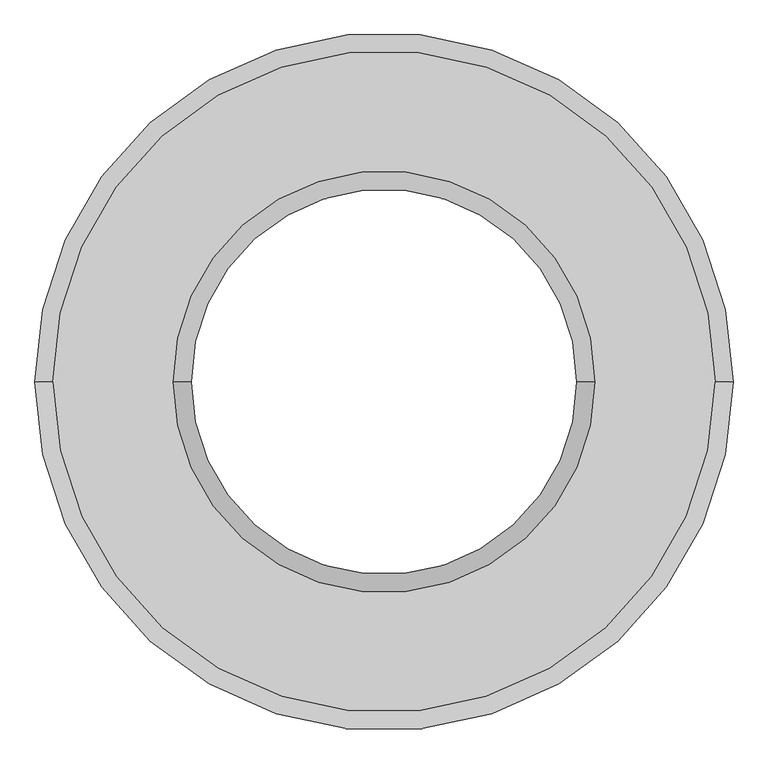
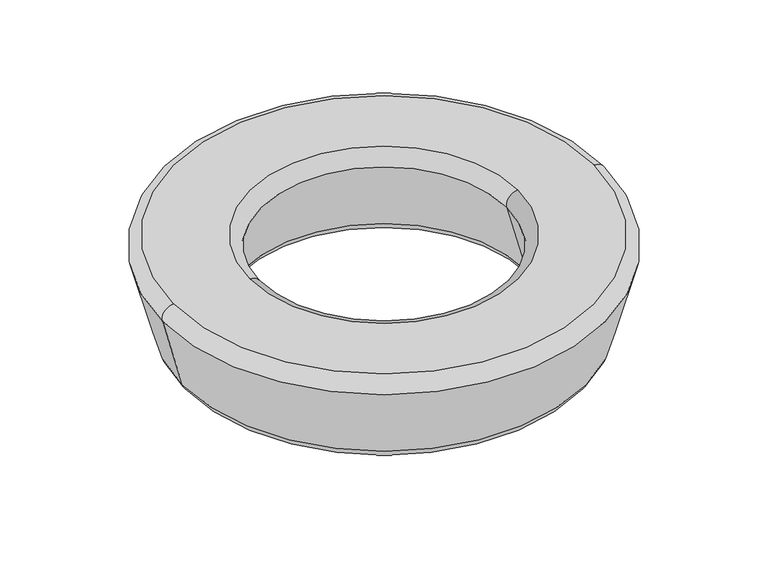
"""IFC4 building model written with IfcOpenShell, lengths in millimetres: furniture geometry, out-sider - Loop - Circle - Bench : out-sider - Loop - Circle - Bench."""

from ifc_helpers import new_model, si_unit, point, frame, origin, origin_with_axes, place, context, project, spatial, polyline, circle_curve, ellipse_curve, trimmed, source, transform, mapped, element, save
from ifc_brep_helpers import plane_surface, revolved_surface, advanced_brep


def furniture_19c0a6c2(model_context):
    return source(origin(), model_context, "Body", "AdvancedBrep", [
        advanced_brep(
        [(-578.234545, 0.0, 42.0312789), (578.234545, 0.0, 42.0312789), (633.0107741, 0.0, 0.0), (-633.0107741, 0.0, 0.0), (-497.9802551, 0.0, 341.5443664), (497.9802551, 0.0, 341.5443664), (-542.7971698, 0.0, 399.9509069), (542.7971698, 0.0, 399.9509069), (-897.1604862, 0.0, 341.5443664), (897.1604862, 0.0, 341.5443664), (852.3435714, 0.0, 399.9509069), (-852.3435714, 0.0, 399.9509069), (-816.9061962, 0.0, 42.0312789), (816.9061962, 0.0, 42.0312789), (-762.1299671, 0.0, 0.0), (762.1299671, 0.0, 0.0)],
        [
            (0, 1, circle_curve(frame((0.0, 0.0, 42.0312789), z_axis=(0.0, 0.0, 1.0), x_axis=(1.0, 0.0, 0.0)), 578.234545)),
            (1, 2, circle_curve(frame((633.0107741, 0.0, 56.7085253), z_axis=(0.0, -1.0, 0.0), x_axis=(1.0, 0.0, 0.0)), 56.7085253)),
            (2, 3, circle_curve(frame((0.0, 0.0, 0.0), z_axis=(0.0, 0.0, -1.0), x_axis=(1.0, 0.0, 0.0)), 633.0107741)),
            (3, 0, circle_curve(frame((-633.0107741, 0.0, 56.7085253), z_axis=(0.0, -1.0, 0.0), x_axis=(-1.0, 0.0, 0.0)), 56.7085253)),
            (4, 5, circle_curve(frame((0.0, 0.0, 341.5443664), z_axis=(0.0, 0.0, 1.0), x_axis=(1.0, 0.0, 0.0)), 497.9802551)),
            (5, 1),
            (0, 4),
            (6, 7, circle_curve(frame((0.0, 0.0, 399.9509069), z_axis=(0.0, 0.0, 1.0), x_axis=(1.0, 0.0, 0.0)), 542.7971698)),
            (7, 5, circle_curve(frame((542.7971698, 0.0, 353.5530226), z_axis=(0.0, -1.0, 0.0), x_axis=(1.0, 0.0, 0.0)), 46.3978843)),
            (4, 6, circle_curve(frame((-542.7971698, 0.0, 353.5530226), z_axis=(0.0, -1.0, 0.0), x_axis=(-1.0, 0.0, 0.0)), 46.3978843)),
            (8, 9, circle_curve(frame((0.0, 0.0, 341.5443664), z_axis=(0.0, 0.0, 1.0), x_axis=(1.0, 0.0, 0.0)), 897.1604862)),
            (9, 10, circle_curve(frame((852.3435714, 0.0, 353.5530226), z_axis=(0.0, -1.0, 0.0), x_axis=(-1.0, 0.0, 0.0)), 46.3978843)),
            (10, 11, circle_curve(frame((0.0, 0.0, 399.9509069), z_axis=(0.0, 0.0, -1.0), x_axis=(1.0, 0.0, 0.0)), 852.3435714)),
            (11, 8, circle_curve(frame((-852.3435714, 0.0, 353.5530226), z_axis=(0.0, -1.0, 0.0), x_axis=(1.0, 0.0, 0.0)), 46.3978843)),
            (12, 13, circle_curve(frame((0.0, 0.0, 42.0312789), z_axis=(0.0, 0.0, 1.0), x_axis=(1.0, 0.0, 0.0)), 816.9061962)),
            (13, 9),
            (8, 12),
            (14, 15, circle_curve(origin_with_axes(), 762.1299671)),
            (15, 13, circle_curve(frame((762.1299671, 0.0, 56.7085253), z_axis=(0.0, -1.0, 0.0), x_axis=(-1.0, 0.0, 0.0)), 56.7085253)),
            (12, 14, circle_curve(frame((-762.1299671, 0.0, 56.7085253), z_axis=(0.0, -1.0, 0.0), x_axis=(1.0, 0.0, 0.0)), 56.7085253)),
            (14, 15, circle_curve(frame((0.0, 0.0, 0.0), z_axis=(0.0, 0.0, -1.0), x_axis=(-1.0, 0.0, 0.0)), 762.1299671)),
            (2, 3, circle_curve(frame((0.0, 0.0, 0.0), z_axis=(0.0, 0.0, 1.0), x_axis=(-1.0, 0.0, 0.0)), 633.0107741)),
            (1, 0, circle_curve(frame((0.0, 0.0, 42.0312789), z_axis=(0.0, 0.0, 1.0), x_axis=(-1.0, 0.0, 0.0)), 578.234545)),
            (5, 4, circle_curve(frame((0.0, 0.0, 341.5443664), z_axis=(0.0, 0.0, 1.0), x_axis=(-1.0, 0.0, 0.0)), 497.9802551)),
            (7, 6, circle_curve(frame((0.0, 0.0, 399.9509069), z_axis=(0.0, 0.0, 1.0), x_axis=(-1.0, 0.0, 0.0)), 542.7971698)),
            (10, 11, circle_curve(frame((0.0, 0.0, 399.9509069), z_axis=(0.0, 0.0, 1.0), x_axis=(-1.0, 0.0, 0.0)), 852.3435714)),
            (9, 8, circle_curve(frame((0.0, 0.0, 341.5443664), z_axis=(0.0, 0.0, 1.0), x_axis=(-1.0, 0.0, 0.0)), 897.1604862)),
            (13, 12, circle_curve(frame((0.0, 0.0, 42.0312789), z_axis=(0.0, 0.0, 1.0), x_axis=(-1.0, 0.0, 0.0)), 816.9061962)),
        ],
        [
            revolved_surface(trimmed(ellipse_curve(frame((633.0107741, 0.0, 56.7085253), z_axis=(0.0, 1.0, 0.0), x_axis=(1.0, 0.0, 0.0)), 56.7085253, 56.7085253), [point((633.0107741, 0.0, 0.0))], [point((578.234545, 0.0, 42.0312789))], True, "CARTESIAN"), (0.0, 0.0, 0.0), (0.0, 0.0, -1.0)),
            revolved_surface(polyline([(578.234545, 0.0, 42.0312789), (497.9802551, 0.0, 341.5443664)]), (0.0, 0.0, 0.0), (0.0, 0.0, -1.0)),
            revolved_surface(trimmed(ellipse_curve(frame((542.7971698, 0.0, 353.5530226), z_axis=(0.0, 1.0, 0.0), x_axis=(1.0, 0.0, 0.0)), 46.3978843, 46.3978843), [point((497.9802551, 0.0, 341.5443664))], [point((542.7971698, 0.0, 399.9509069))], True, "CARTESIAN"), (0.0, 0.0, 0.0), (0.0, 0.0, -1.0)),
            revolved_surface(trimmed(ellipse_curve(frame((852.3435714, 0.0, 353.5530226), z_axis=(0.0, 1.0, 0.0), x_axis=(-1.0, 0.0, 0.0)), 46.3978843, 46.3978843), [point((852.3435714, 0.0, 399.9509069))], [point((897.1604862, 0.0, 341.5443664))], True, "CARTESIAN"), (0.0, 0.0, 0.0), (0.0, 0.0, -1.0)),
            revolved_surface(polyline([(897.1604862, 0.0, 341.5443664), (816.9061962, 0.0, 42.0312789)]), (0.0, 0.0, 0.0), (0.0, 0.0, -1.0)),
            revolved_surface(trimmed(ellipse_curve(frame((762.1299671, 0.0, 56.7085253), z_axis=(0.0, 1.0, 0.0), x_axis=(-1.0, 0.0, 0.0)), 56.7085253, 56.7085253), [point((816.9061962, 0.0, 42.0312789))], [point((762.1299671, 0.0, 0.0))], True, "CARTESIAN"), (0.0, 0.0, 0.0), (0.0, 0.0, -1.0)),
            plane_surface(frame((0.0, 0.0, 0.0), z_axis=(0.0, 0.0, -1.0), x_axis=(-1.0, 0.0, 0.0))),
            revolved_surface(trimmed(ellipse_curve(frame((-633.0107741, 0.0, 56.7085253), z_axis=(0.0, -1.0, 0.0), x_axis=(-1.0, 0.0, 0.0)), 56.7085253, 56.7085253), [point((-633.0107741, 0.0, 0.0))], [point((-578.234545, 0.0, 42.0312789))], True, "CARTESIAN"), (0.0, 0.0, 0.0), (0.0, 0.0, -1.0)),
            revolved_surface(polyline([(-578.234545, 0.0, 42.0312789), (-497.9802551, 0.0, 341.5443664)]), (0.0, 0.0, 0.0), (0.0, 0.0, -1.0)),
            revolved_surface(trimmed(ellipse_curve(frame((-542.7971698, 0.0, 353.5530226), z_axis=(0.0, -1.0, 0.0), x_axis=(-1.0, 0.0, 0.0)), 46.3978843, 46.3978843), [point((-497.9802551, 0.0, 341.5443664))], [point((-542.7971698, 0.0, 399.9509069))], True, "CARTESIAN"), (0.0, 0.0, 0.0), (0.0, 0.0, -1.0)),
            plane_surface(frame((0.0, 0.0, 399.9509069), z_axis=(0.0, 0.0, 1.0), x_axis=(-1.0, 0.0, 0.0))),
            revolved_surface(trimmed(ellipse_curve(frame((-852.3435714, 0.0, 353.5530226), z_axis=(0.0, -1.0, 0.0), x_axis=(1.0, 0.0, 0.0)), 46.3978843, 46.3978843), [point((-852.3435714, 0.0, 399.9509069))], [point((-897.1604862, 0.0, 341.5443664))], True, "CARTESIAN"), (0.0, 0.0, 0.0), (0.0, 0.0, -1.0)),
            revolved_surface(polyline([(-897.1604862, 0.0, 341.5443664), (-816.9061962, 0.0, 42.0312789)]), (0.0, 0.0, 0.0), (0.0, 0.0, -1.0)),
            revolved_surface(trimmed(ellipse_curve(frame((-762.1299671, 0.0, 56.7085253), z_axis=(0.0, -1.0, 0.0), x_axis=(1.0, 0.0, 0.0)), 56.7085253, 56.7085253), [point((-816.9061962, 0.0, 42.0312789))], [point((-762.1299671, 0.0, 0.0))], True, "CARTESIAN"), (0.0, 0.0, 0.0), (0.0, 0.0, -1.0)),
        ],
        [
            (0, [[1, 2, 3, 4]]),
            (1, [[5, 6, -1, 7]]),
            (2, [[8, 9, -5, 10]]),
            (3, [[11, 12, 13, 14]]),
            (4, [[15, 16, -11, 17]]),
            (5, [[18, 19, -15, 20]]),
            (6, [[21, -18], [22, -3]]),
            (7, [[23, -4, -22, -2]]),
            (8, [[24, -7, -23, -6]]),
            (9, [[25, -10, -24, -9]]),
            (10, [[26, -13], [-25, -8]]),
            (11, [[27, -14, -26, -12]]),
            (12, [[28, -17, -27, -16]]),
            (13, [[-21, -20, -28, -19]]),
        ],
    ),
    ])


if __name__ == "__main__":
    model = new_model("IFC4")
    model_context = context("Model", 3, world=origin())
    ifc_project = project(units=[si_unit("LENGTHUNIT", "METRE", prefix="MILLI")], contexts=[model_context])
    site = spatial("IfcSite", under=ifc_project)
    building = spatial("IfcBuilding", under=site)
    placement = place(None, origin())
    furniture_shape = furniture_19c0a6c2(model_context)
    element("IfcFurniture", 1, ObjectType="out-sider - Loop - Circle - Bench : out-sider - Loop - Circle - Bench", at=placement, inside=building, context=model_context, shape_type="MappedRepresentation", body=[
        mapped(furniture_shape, transform((0.0, 0.0, 0.0), x_axis=(1.0, 0.0, 0.0), y_axis=(0.0, 1.0, 0.0), z_axis=(0.0, 0.0, 1.0))),
    ])
    save(model, "model.ifc")
